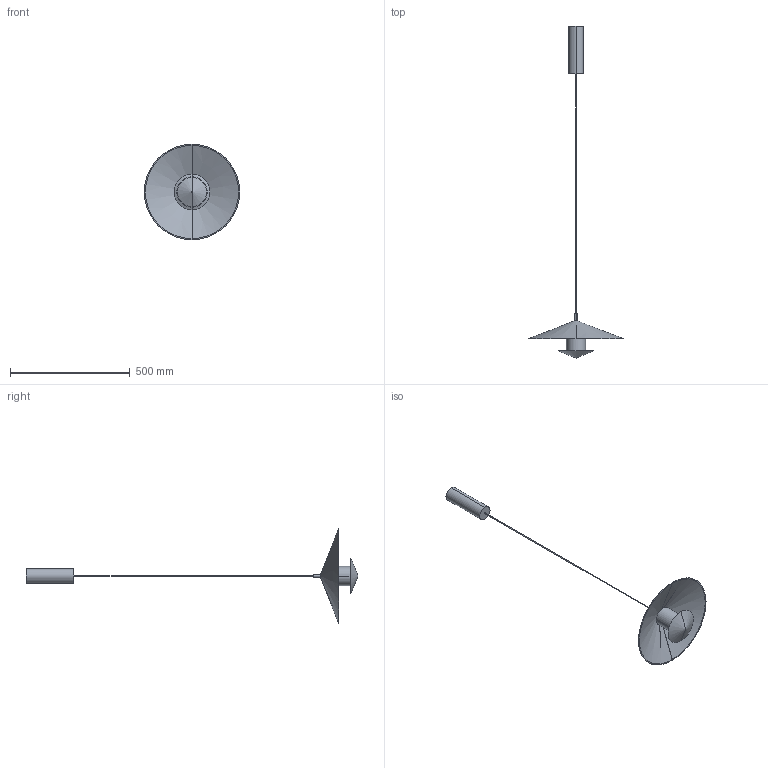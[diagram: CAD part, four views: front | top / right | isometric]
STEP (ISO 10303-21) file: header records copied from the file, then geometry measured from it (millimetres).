
FILE_DESCRIPTION (( 'STEP AP214' ), '1' );
FILE_NAME ('2D-3D GEHIT_C1350_40.STEP', '2025-09-05T15:36:56', ( '' ), ( '' ), 'SwSTEP 2.0', 'SolidWorks 2018', '' );
FILE_SCHEMA (( 'AUTOMOTIVE_DESIGN' ));
Length unit declared in the file: millimetre
Products named in the file (1): 2D-3D GEHIT_C1350_40
Bounding box: 398.26 x 1385.89 x 398.26 mm (x, y, z)
Volume: 1146693.5 mm3; surface area: 430409.2 mm2
Topology: 7 solids, 7 shells, 41 faces, 76 edges, 45 vertices
Faces by surface type: plane 13, cylinder 12, cone 10, torus 6
Entity records: 1084 total; most frequent: DIRECTION 202, CARTESIAN_POINT 157, ORIENTED_EDGE 140, AXIS2_PLACEMENT_3D 90, EDGE_CURVE 70, CIRCLE 48, EDGE_LOOP 45, VERTEX_POINT 45
